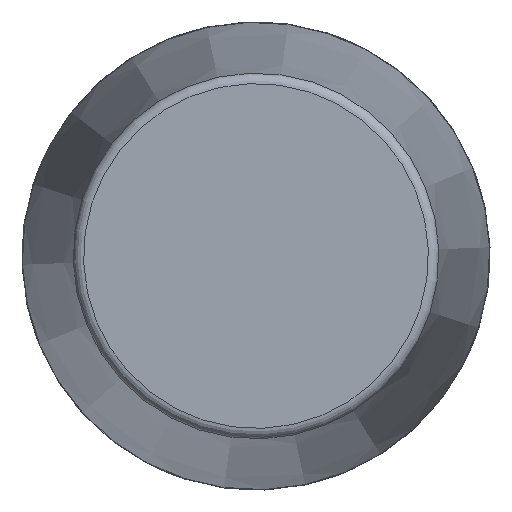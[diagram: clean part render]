
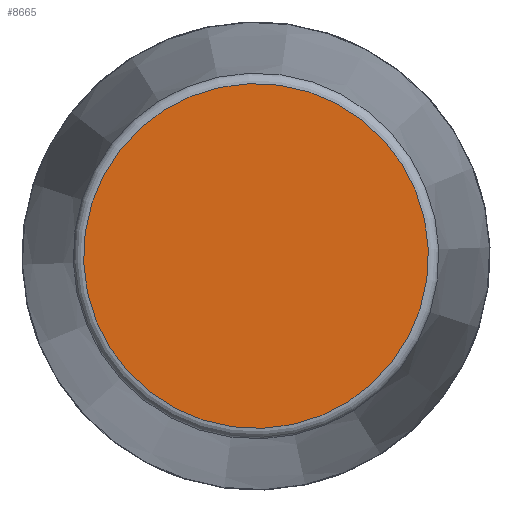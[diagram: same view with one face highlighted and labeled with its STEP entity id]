
A CAD part, front view. The second image highlights one B-rep face of the part: STEP entity #8665.
In plain terms, the highlighted planar face has unit normal (0, -1, 0) as drawn and (1, 0, 0) by its records, which use the part's own axes.
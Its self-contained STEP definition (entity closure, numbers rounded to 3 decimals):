
#2380=PLANE('',#9010);
#2963=FACE_OUTER_BOUND('',#3522,.T.);
#3522=EDGE_LOOP('',(#8152));
#3563=CIRCLE('',#9006,82.852);
#4413=VERTEX_POINT('',#16540);
#5663=EDGE_CURVE('',#4413,#4413,#3563,.T.);
#8152=ORIENTED_EDGE('',*,*,#5663,.F.);
#8665=ADVANCED_FACE('',(#2963),#2380,.T.);
#9006=AXIS2_PLACEMENT_3D('',#16541,#10247,#10248);
#9010=AXIS2_PLACEMENT_3D('',#16547,#10255,#10256);
#10247=DIRECTION('center_axis',(-1.,0.,0.));
#10248=DIRECTION('ref_axis',(0.,0.,
1.));
#10255=DIRECTION('center_axis',(1.,0.,0.));
#10256=DIRECTION('ref_axis',(0.,0.,-1.));
#16540=CARTESIAN_POINT('',(423.,0.,-82.852));
#16541=CARTESIAN_POINT('Origin',(423.,0.,0.));
#16547=CARTESIAN_POINT('Origin',(423.,0.,0.));
